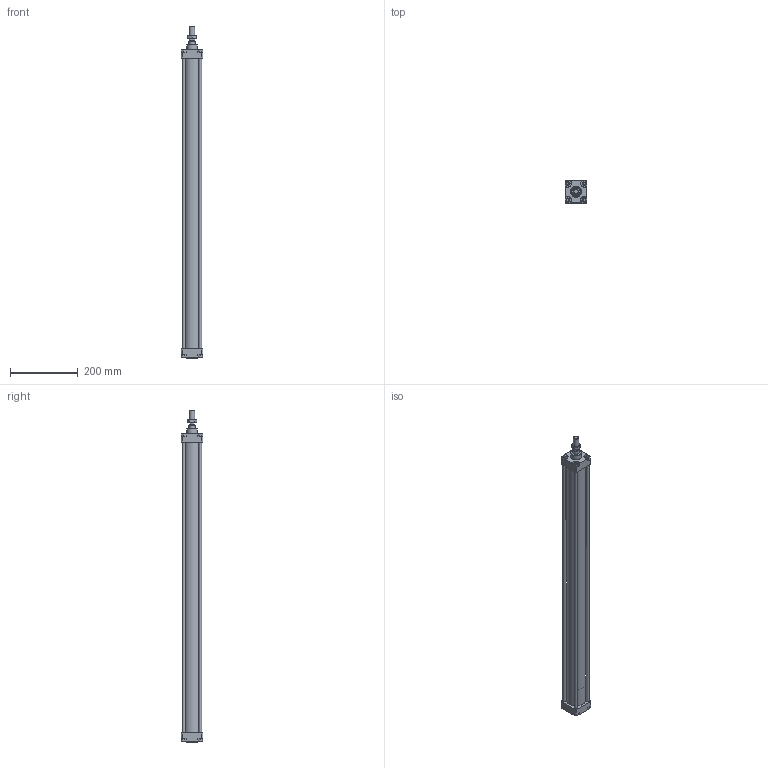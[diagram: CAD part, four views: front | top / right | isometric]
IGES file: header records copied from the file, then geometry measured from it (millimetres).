
Global section: file name: 1303_050_0800_01A; native system: Autodesk Inventor 2014; preprocessor: unknown; author: A. Manieri; date: 20161123.150332; units: millimetre
Bounding box: 65 x 65 x 982 mm (x, y, z)
Volume: 983429.7 mm3; surface area: 477295.9 mm2
Topology: 9 solids, 9 shells, 163 faces, 401 edges, 268 vertices
Faces by surface type: bspline 163
